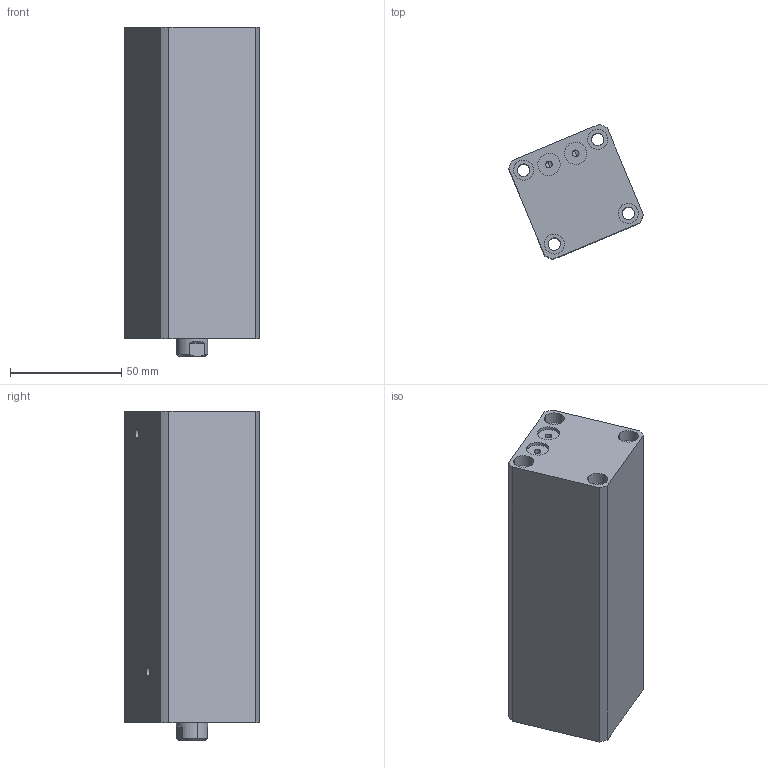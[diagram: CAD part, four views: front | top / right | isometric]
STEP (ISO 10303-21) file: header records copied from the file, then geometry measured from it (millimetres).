
FILE_DESCRIPTION (( 'STEP AP214' ), '1' );
FILE_NAME ('chtb-sdmb25x95n_asm.STEP', '2018-05-24T01:49:34', ( 'Windows' ), ( 'Microsoft' ), 'SwSTEP 2.0', 'SolidWorks 2015', '' );
FILE_SCHEMA (( 'AUTOMOTIVE_DESIGN' ));
Length unit declared in the file: millimetre
Products named in the file (4): chtb-sdmb25x95n_asm; CHTB-SDMB25X95NHSG; CHTB-SDMB25X95NBT; CHTB-25QG
Assembly tree (3 placements, depth 2):
  chtb-sdmb25x95n_asm
    CHTB-25QG
    CHTB-SDMB25X95NBT
    CHTB-SDMB25X95NHSG
Bounding box: 60.55 x 60.55 x 148 mm (x, y, z)
Volume: 270175.5 mm3; surface area: 66638.9 mm2
Topology: 3 solids, 3 shells, 142 faces, 379 edges, 257 vertices
Faces by surface type: cylinder 89, plane 34, bspline 10, cone 9
Entity records: 8024 total; most frequent: CARTESIAN_POINT 4397, ORIENTED_EDGE 746, DIRECTION 661, EDGE_CURVE 373, AXIS2_PLACEMENT_3D 272, VERTEX_POINT 257, EDGE_LOOP 180, FACE_OUTER_BOUND 142
